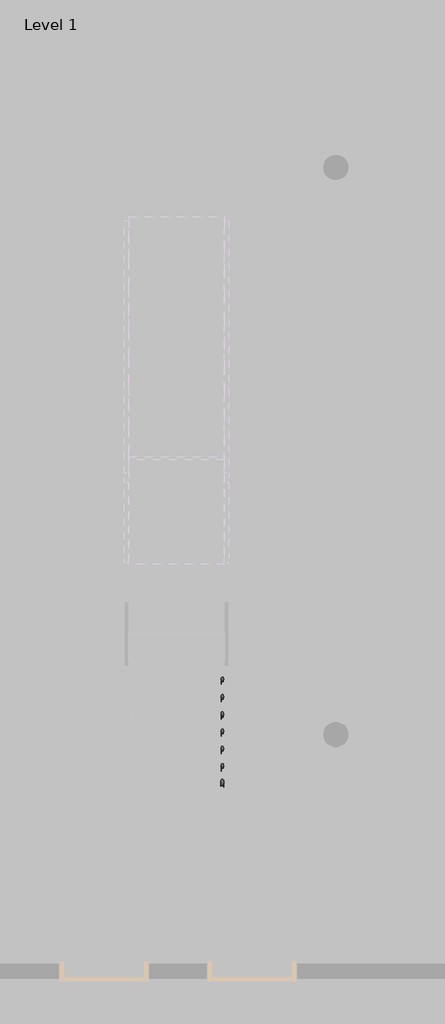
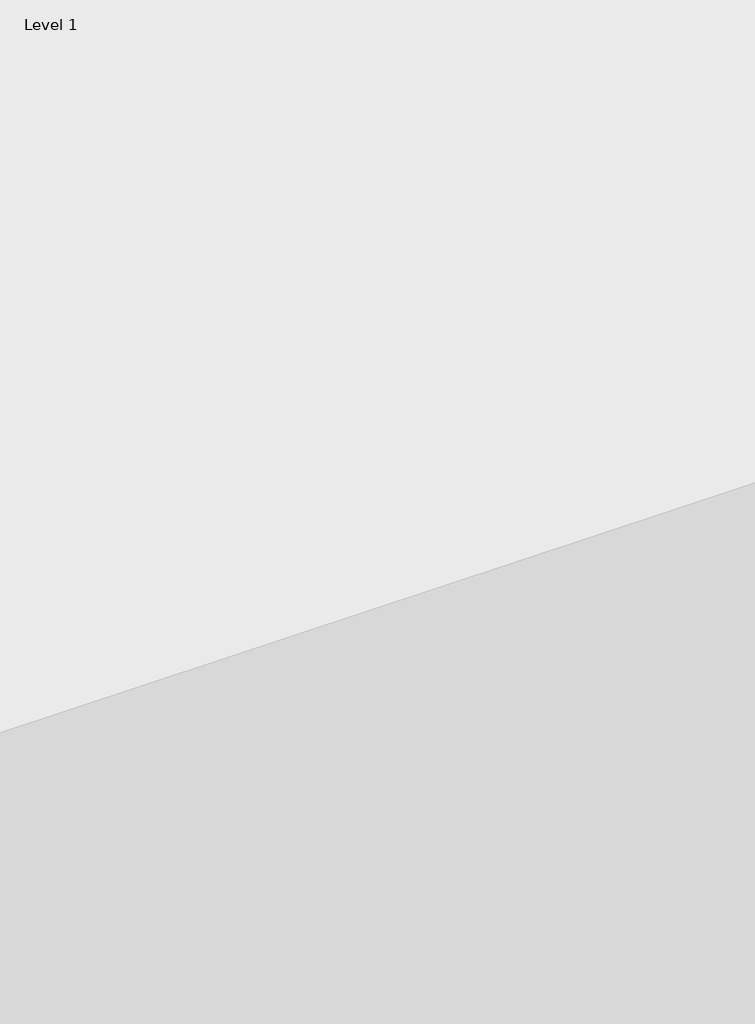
# One storey, part 19 of 27: 1 railing.
"""IFC4 building model written with IfcOpenShell, lengths in millimetres."""

from ifc_helpers import new_model, si_unit, frame, origin, place, context, project, spatial, circle_curve, ellipse_curve, element, save
from ifc_brep_helpers import plane_surface, cylinder_surface, advanced_brep

model = new_model("IFC4")

# Units and contexts
model_context = context("Model", 3, world=origin())
ifc_project = project(units=[si_unit("LENGTHUNIT", "METRE", prefix="MILLI")], contexts=[model_context])

# Site, building, storey
site = spatial("IfcSite", under=ifc_project)
building = spatial("IfcBuilding", under=site)
storey = spatial("IfcBuildingStorey", under=building, Name="Level 1", Elevation=0.0)

# Railing
placement = place(None, origin())
element("IfcRailing", 1, ObjectType="900mm Pipe", at=placement, inside=storey, context=model_context, shape_type="AdvancedBrep", body=[
    advanced_brep(
    [(3663.2567657, -13373.8611817, 1049.1094102), (3623.2567657, -13373.8611817, 1049.1094102), (3663.2567657, -10618.1011638, 2780.0), (3623.2567657, -10618.1011638, 2780.0), (3663.2567657, -9693.1011638, 2780.0), (3623.2567657, -9693.1011638, 2780.0), (3663.2567657, -9413.2234845, 2955.790939), (3623.2567657, -9413.2234845, 2955.790939), (3663.2567657, -6673.8611817, 4676.3821375), (3623.2567657, -6673.8611817, 4676.3821375)],
    [
        (0, 1, ellipse_curve(frame((3643.2567657, -13373.8611817, 1049.1094102), z_axis=(0.0, -1.0, 0.0), x_axis=(0.0, 0.0, -1.0)), 23.6178625, 20.0)),
        (1, 0, ellipse_curve(frame((3643.2567657, -13373.8611817, 1049.1094102), z_axis=(0.0, -1.0, 0.0), x_axis=(0.0, 0.0, -1.0)), 23.6178625, 20.0)),
        (0, 2),
        (2, 3, ellipse_curve(frame((3643.2567657, -10618.1011638, 2780.0), z_axis=(0.0, -0.9609413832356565, -0.2767519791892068), x_axis=(0.0, 0.2767519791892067, -0.9609413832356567)), 20.812924, 20.0)),
        (3, 1),
        (3, 2, ellipse_curve(frame((3643.2567657, -10618.1011638, 2780.0), z_axis=(0.0, -0.9609413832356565, -0.2767519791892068), x_axis=(0.0, 0.2767519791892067, -0.9609413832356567)), 20.812924, 20.0)),
        (2, 4),
        (4, 5, ellipse_curve(frame((3643.2567657, -9693.1011638, 2780.0), z_axis=(0.0, -0.9609413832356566, -0.2767519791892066), x_axis=(0.0, -0.2767519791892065, 0.9609413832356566)), 20.812924, 20.0)),
        (5, 3),
        (5, 4, ellipse_curve(frame((3643.2567657, -9693.1011638, 2780.0), z_axis=(0.0, -0.9609413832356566, -0.2767519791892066), x_axis=(0.0, -0.2767519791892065, 0.9609413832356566)), 20.812924, 20.0)),
        (4, 6),
        (6, 7, circle_curve(frame((3643.2567657, -9413.2234845, 2955.790939), z_axis=(0.0, -0.846816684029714, -0.5318848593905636), x_axis=(-1.0, 0.0, 0.0)), 20.0)),
        (7, 5),
        (7, 6, circle_curve(frame((3643.2567657, -9413.2234845, 2955.790939), z_axis=(0.0, -0.846816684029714, -0.5318848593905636), x_axis=(-1.0, 0.0, 0.0)), 20.0)),
        (8, 9, ellipse_curve(frame((3643.2567657, -6673.8611817, 4676.3821375), z_axis=(0.0, 1.0, 0.0), x_axis=(0.0, 0.0, -1.0)), 23.6178625, 20.0)),
        (9, 8, ellipse_curve(frame((3643.2567657, -6673.8611817, 4676.3821375), z_axis=(0.0, 1.0, 0.0), x_axis=(0.0, 0.0, -1.0)), 23.6178625, 20.0)),
        (6, 8),
        (9, 7),
    ],
    [
        plane_surface(frame((3643.2567657, -13373.8611817, 1072.7272727), z_axis=(0.0, -1.0, 0.0), x_axis=(0.0, 0.0, 1.0))),
        cylinder_surface(frame((3643.2567657, -13363.2234845, 1055.790939), z_axis=(0.0, -0.8468166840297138, -0.5318848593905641), x_axis=(-1.0, 0.0, 0.0)), 20.0),
        cylinder_surface(frame((3643.2567657, -10623.8611817, 2780.0), z_axis=(0.0, -1.0, 0.0), x_axis=(-1.0, 0.0, 0.0)), 20.0),
        cylinder_surface(frame((3643.2567657, -9688.2234845, 2783.0636663), z_axis=(0.0, -0.846816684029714, -0.5318848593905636), x_axis=(-1.0, 0.0, 0.0)), 20.0),
        plane_surface(frame((3643.2567657, -6673.8611817, 4700.0), z_axis=(0.0, 1.0, 0.0), x_axis=(0.0, 0.0, 1.0))),
        cylinder_surface(frame((3643.2567657, -9413.2234845, 2955.790939), z_axis=(0.0, -0.8468166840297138, -0.5318848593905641), x_axis=(-1.0, 0.0, 0.0)), 20.0),
    ],
    [
        (0, [[1, 2]]),
        (1, [[-1, 3, 4, 5]]),
        (1, [[-2, -5, 6, -3]]),
        (2, [[-4, 7, 8, 9]]),
        (2, [[-6, -9, 10, -7]]),
        (3, [[-8, 11, 12, 13]]),
        (3, [[-10, -13, 14, -11]]),
        (4, [[15, 16]]),
        (5, [[-12, 17, -16, 18]]),
        (5, [[-14, -18, -15, -17]]),
    ],
),
    advanced_brep(
    [(3628.2567657, -13373.8611817, 930.0138759), (3658.2567657, -13373.8611817, 930.0138759), (3628.2567657, -10623.8611817, 2657.2866031), (3658.2567657, -10623.8611817, 2657.2866031)],
    [
        (0, 1, ellipse_curve(frame((3643.2567657, -13373.8611817, 930.0138759), z_axis=(0.0, -1.0, 0.0), x_axis=(0.0, 0.0, -1.0)), 17.7133969, 15.0)),
        (1, 0, ellipse_curve(frame((3643.2567657, -13373.8611817, 930.0138759), z_axis=(0.0, -1.0, 0.0), x_axis=(0.0, 0.0, -1.0)), 17.7133969, 15.0)),
        (2, 3, ellipse_curve(frame((3643.2567657, -10623.8611817, 2657.2866031), z_axis=(0.0, 1.0, 0.0), x_axis=(0.0, 0.0, -1.0)), 17.7133969, 15.0)),
        (3, 2, ellipse_curve(frame((3643.2567657, -10623.8611817, 2657.2866031), z_axis=(0.0, 1.0, 0.0), x_axis=(0.0, 0.0, -1.0)), 17.7133969, 15.0)),
        (0, 2),
        (3, 1),
    ],
    [
        plane_surface(frame((3643.2567657, -13373.8611817, 947.7272727), z_axis=(0.0, -1.0, 0.0), x_axis=(0.0, 0.0, 1.0))),
        plane_surface(frame((3643.2567657, -10623.8611817, 2675.0), z_axis=(0.0, 1.0, 0.0), x_axis=(0.0, 0.0, 1.0))),
        cylinder_surface(frame((3643.2567657, -13365.8829088, 935.0250225), z_axis=(0.0, -0.8468166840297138, -0.5318848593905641), x_axis=(1.0, 0.0, 0.0)), 15.0),
    ],
    [
        (0, [[1, 2]]),
        (1, [[3, 4]]),
        (2, [[-1, 5, -4, 6]]),
        (2, [[-2, -6, -3, -5]]),
    ],
),
    advanced_brep(
    [(3628.2567657, -10623.8611817, 2660.0), (3658.2567657, -10623.8611817, 2660.0), (3628.2567657, -9694.5411682, 2660.0), (3658.2567657, -9694.5411682, 2660.0), (3628.2567657, -9423.8611817, 2830.0138759), (3658.2567657, -9423.8611817, 2830.0138759)],
    [
        (0, 1, circle_curve(frame((3643.2567657, -10623.8611817, 2660.0), z_axis=(0.0, -1.0, 0.0), x_axis=(1.0, 0.0, 0.0)), 15.0)),
        (1, 0, circle_curve(frame((3643.2567657, -10623.8611817, 2660.0), z_axis=(0.0, -1.0, 0.0), x_axis=(1.0, 0.0, 0.0)), 15.0)),
        (0, 2),
        (2, 3, ellipse_curve(frame((3643.2567657, -9694.5411682, 2660.0), z_axis=(0.0, -0.9609413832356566, -0.2767519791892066), x_axis=(0.0, -0.27675197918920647, 0.9609413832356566)), 15.609693, 15.0)),
        (3, 1),
        (3, 2, ellipse_curve(frame((3643.2567657, -9694.5411682, 2660.0), z_axis=(0.0, -0.9609413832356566, -0.2767519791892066), x_axis=(0.0, -0.27675197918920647, 0.9609413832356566)), 15.609693, 15.0)),
        (4, 5, ellipse_curve(frame((3643.2567657, -9423.8611817, 2830.0138759), z_axis=(0.0, 1.0, 0.0), x_axis=(0.0, 0.0, -1.0)), 17.7133969, 15.0)),
        (5, 4, ellipse_curve(frame((3643.2567657, -9423.8611817, 2830.0138759), z_axis=(0.0, 1.0, 0.0), x_axis=(0.0, 0.0, -1.0)), 17.7133969, 15.0)),
        (2, 4),
        (5, 3),
    ],
    [
        plane_surface(frame((3643.2567657, -10623.8611817, 2675.0), z_axis=(0.0, -1.0, 0.0), x_axis=(0.0, 0.0, 1.0))),
        cylinder_surface(frame((3643.2567657, -10623.8611817, 2660.0), z_axis=(0.0, -1.0, 0.0), x_axis=(1.0, 0.0, 0.0)), 15.0),
        plane_surface(frame((3643.2567657, -9423.8611817, 2847.7272727), z_axis=(0.0, 1.0, 0.0), x_axis=(0.0, 0.0, 1.0))),
        cylinder_surface(frame((3643.2567657, -9690.8829088, 2662.2977497), z_axis=(0.0, -0.846816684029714, -0.5318848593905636), x_axis=(1.0, 0.0, 0.0)), 15.0),
    ],
    [
        (0, [[1, 2]]),
        (1, [[-1, 3, 4, 5]]),
        (1, [[-2, -5, 6, -3]]),
        (2, [[7, 8]]),
        (3, [[-4, 9, -8, 10]]),
        (3, [[-6, -10, -7, -9]]),
    ],
),
    advanced_brep(
    [(3628.2567657, -9423.8611817, 2830.0138759), (3658.2567657, -9423.8611817, 2830.0138759), (3628.2567657, -6673.8611817, 4557.2866031), (3658.2567657, -6673.8611817, 4557.2866031)],
    [
        (0, 1, ellipse_curve(frame((3643.2567657, -9423.8611817, 2830.0138759), z_axis=(0.0, -1.0, 0.0), x_axis=(0.0, 0.0, -1.0)), 17.7133969, 15.0)),
        (1, 0, ellipse_curve(frame((3643.2567657, -9423.8611817, 2830.0138759), z_axis=(0.0, -1.0, 0.0), x_axis=(0.0, 0.0, -1.0)), 17.7133969, 15.0)),
        (2, 3, ellipse_curve(frame((3643.2567657, -6673.8611817, 4557.2866031), z_axis=(0.0, 1.0, 0.0), x_axis=(0.0, 0.0, -1.0)), 17.7133969, 15.0)),
        (3, 2, ellipse_curve(frame((3643.2567657, -6673.8611817, 4557.2866031), z_axis=(0.0, 1.0, 0.0), x_axis=(0.0, 0.0, -1.0)), 17.7133969, 15.0)),
        (0, 2),
        (3, 1),
    ],
    [
        plane_surface(frame((3643.2567657, -9423.8611817, 2847.7272727), z_axis=(0.0, -1.0, 0.0), x_axis=(0.0, 0.0, 1.0))),
        plane_surface(frame((3643.2567657, -6673.8611817, 4575.0), z_axis=(0.0, 1.0, 0.0), x_axis=(0.0, 0.0, 1.0))),
        cylinder_surface(frame((3643.2567657, -9415.8829088, 2835.0250225), z_axis=(0.0, -0.8468166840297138, -0.5318848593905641), x_axis=(1.0, 0.0, 0.0)), 15.0),
    ],
    [
        (0, [[1, 2]]),
        (1, [[3, 4]]),
        (2, [[-1, 5, -4, 6]]),
        (2, [[-2, -6, -3, -5]]),
    ],
),
    advanced_brep(
    [(3628.2567657, -13373.8611817, 805.0138759), (3658.2567657, -13373.8611817, 805.0138759), (3628.2567657, -10623.8611817, 2532.2866031), (3658.2567657, -10623.8611817, 2532.2866031)],
    [
        (0, 1, ellipse_curve(frame((3643.2567657, -13373.8611817, 805.0138759), z_axis=(0.0, -1.0, 0.0), x_axis=(0.0, 0.0, -1.0)), 17.7133969, 15.0)),
        (1, 0, ellipse_curve(frame((3643.2567657, -13373.8611817, 805.0138759), z_axis=(0.0, -1.0, 0.0), x_axis=(0.0, 0.0, -1.0)), 17.7133969, 15.0)),
        (2, 3, ellipse_curve(frame((3643.2567657, -10623.8611817, 2532.2866031), z_axis=(0.0, 1.0, 0.0), x_axis=(0.0, 0.0, -1.0)), 17.7133969, 15.0)),
        (3, 2, ellipse_curve(frame((3643.2567657, -10623.8611817, 2532.2866031), z_axis=(0.0, 1.0, 0.0), x_axis=(0.0, 0.0, -1.0)), 17.7133969, 15.0)),
        (0, 2),
        (3, 1),
    ],
    [
        plane_surface(frame((3643.2567657, -13373.8611817, 822.7272727), z_axis=(0.0, -1.0, 0.0), x_axis=(0.0, 0.0, 1.0))),
        plane_surface(frame((3643.2567657, -10623.8611817, 2550.0), z_axis=(0.0, 1.0, 0.0), x_axis=(0.0, 0.0, 1.0))),
        cylinder_surface(frame((3643.2567657, -13365.8829088, 810.0250225), z_axis=(0.0, -0.8468166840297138, -0.5318848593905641), x_axis=(1.0, 0.0, 0.0)), 15.0),
    ],
    [
        (0, [[1, 2]]),
        (1, [[3, 4]]),
        (2, [[-1, 5, -4, 6]]),
        (2, [[-2, -6, -3, -5]]),
    ],
),
    advanced_brep(
    [(3628.2567657, -10623.8611817, 2535.0), (3658.2567657, -10623.8611817, 2535.0), (3628.2567657, -9694.5411682, 2535.0), (3658.2567657, -9694.5411682, 2535.0), (3628.2567657, -9423.8611817, 2705.0138759), (3658.2567657, -9423.8611817, 2705.0138759)],
    [
        (0, 1, circle_curve(frame((3643.2567657, -10623.8611817, 2535.0), z_axis=(0.0, -1.0, 0.0), x_axis=(1.0, 0.0, 0.0)), 15.0)),
        (1, 0, circle_curve(frame((3643.2567657, -10623.8611817, 2535.0), z_axis=(0.0, -1.0, 0.0), x_axis=(1.0, 0.0, 0.0)), 15.0)),
        (0, 2),
        (2, 3, ellipse_curve(frame((3643.2567657, -9694.5411682, 2535.0), z_axis=(0.0, -0.9609413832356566, -0.2767519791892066), x_axis=(0.0, -0.27675197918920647, 0.9609413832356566)), 15.609693, 15.0)),
        (3, 1),
        (3, 2, ellipse_curve(frame((3643.2567657, -9694.5411682, 2535.0), z_axis=(0.0, -0.9609413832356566, -0.2767519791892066), x_axis=(0.0, -0.27675197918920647, 0.9609413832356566)), 15.609693, 15.0)),
        (4, 5, ellipse_curve(frame((3643.2567657, -9423.8611817, 2705.0138759), z_axis=(0.0, 1.0, 0.0), x_axis=(0.0, 0.0, -1.0)), 17.7133969, 15.0)),
        (5, 4, ellipse_curve(frame((3643.2567657, -9423.8611817, 2705.0138759), z_axis=(0.0, 1.0, 0.0), x_axis=(0.0, 0.0, -1.0)), 17.7133969, 15.0)),
        (2, 4),
        (5, 3),
    ],
    [
        plane_surface(frame((3643.2567657, -10623.8611817, 2550.0), z_axis=(0.0, -1.0, 0.0), x_axis=(0.0, 0.0, 1.0))),
        cylinder_surface(frame((3643.2567657, -10623.8611817, 2535.0), z_axis=(0.0, -1.0, 0.0), x_axis=(1.0, 0.0, 0.0)), 15.0),
        plane_surface(frame((3643.2567657, -9423.8611817, 2722.7272727), z_axis=(0.0, 1.0, 0.0), x_axis=(0.0, 0.0, 1.0))),
        cylinder_surface(frame((3643.2567657, -9690.8829088, 2537.2977497), z_axis=(0.0, -0.846816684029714, -0.5318848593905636), x_axis=(1.0, 0.0, 0.0)), 15.0),
    ],
    [
        (0, [[1, 2]]),
        (1, [[-1, 3, 4, 5]]),
        (1, [[-2, -5, 6, -3]]),
        (2, [[7, 8]]),
        (3, [[-4, 9, -8, 10]]),
        (3, [[-6, -10, -7, -9]]),
    ],
),
    advanced_brep(
    [(3628.2567657, -9423.8611817, 2705.0138759), (3658.2567657, -9423.8611817, 2705.0138759), (3628.2567657, -6673.8611817, 4432.2866031), (3658.2567657, -6673.8611817, 4432.2866031)],
    [
        (0, 1, ellipse_curve(frame((3643.2567657, -9423.8611817, 2705.0138759), z_axis=(0.0, -1.0, 0.0), x_axis=(0.0, 0.0, -1.0)), 17.7133969, 15.0)),
        (1, 0, ellipse_curve(frame((3643.2567657, -9423.8611817, 2705.0138759), z_axis=(0.0, -1.0, 0.0), x_axis=(0.0, 0.0, -1.0)), 17.7133969, 15.0)),
        (2, 3, ellipse_curve(frame((3643.2567657, -6673.8611817, 4432.2866031), z_axis=(0.0, 1.0, 0.0), x_axis=(0.0, 0.0, -1.0)), 17.7133969, 15.0)),
        (3, 2, ellipse_curve(frame((3643.2567657, -6673.8611817, 4432.2866031), z_axis=(0.0, 1.0, 0.0), x_axis=(0.0, 0.0, -1.0)), 17.7133969, 15.0)),
        (0, 2),
        (3, 1),
    ],
    [
        plane_surface(frame((3643.2567657, -9423.8611817, 2722.7272727), z_axis=(0.0, -1.0, 0.0), x_axis=(0.0, 0.0, 1.0))),
        plane_surface(frame((3643.2567657, -6673.8611817, 4450.0), z_axis=(0.0, 1.0, 0.0), x_axis=(0.0, 0.0, 1.0))),
        cylinder_surface(frame((3643.2567657, -9415.8829088, 2710.0250225), z_axis=(0.0, -0.8468166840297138, -0.5318848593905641), x_axis=(1.0, 0.0, 0.0)), 15.0),
    ],
    [
        (0, [[1, 2]]),
        (1, [[3, 4]]),
        (2, [[-1, 5, -4, 6]]),
        (2, [[-2, -6, -3, -5]]),
    ],
),
    advanced_brep(
    [(3628.2567657, -13373.8611817, 680.0138759), (3658.2567657, -13373.8611817, 680.0138759), (3628.2567657, -10623.8611817, 2407.2866031), (3658.2567657, -10623.8611817, 2407.2866031)],
    [
        (0, 1, ellipse_curve(frame((3643.2567657, -13373.8611817, 680.0138759), z_axis=(0.0, -1.0, 0.0), x_axis=(0.0, 0.0, -1.0)), 17.7133969, 15.0)),
        (1, 0, ellipse_curve(frame((3643.2567657, -13373.8611817, 680.0138759), z_axis=(0.0, -1.0, 0.0), x_axis=(0.0, 0.0, -1.0)), 17.7133969, 15.0)),
        (2, 3, ellipse_curve(frame((3643.2567657, -10623.8611817, 2407.2866031), z_axis=(0.0, 1.0, 0.0), x_axis=(0.0, 0.0, -1.0)), 17.7133969, 15.0)),
        (3, 2, ellipse_curve(frame((3643.2567657, -10623.8611817, 2407.2866031), z_axis=(0.0, 1.0, 0.0), x_axis=(0.0, 0.0, -1.0)), 17.7133969, 15.0)),
        (0, 2),
        (3, 1),
    ],
    [
        plane_surface(frame((3643.2567657, -13373.8611817, 697.7272727), z_axis=(0.0, -1.0, 0.0), x_axis=(0.0, 0.0, 1.0))),
        plane_surface(frame((3643.2567657, -10623.8611817, 2425.0), z_axis=(0.0, 1.0, 0.0), x_axis=(0.0, 0.0, 1.0))),
        cylinder_surface(frame((3643.2567657, -13365.8829088, 685.0250225), z_axis=(0.0, -0.8468166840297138, -0.5318848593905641), x_axis=(1.0, 0.0, 0.0)), 15.0),
    ],
    [
        (0, [[1, 2]]),
        (1, [[3, 4]]),
        (2, [[-1, 5, -4, 6]]),
        (2, [[-2, -6, -3, -5]]),
    ],
),
    advanced_brep(
    [(3628.2567657, -10623.8611817, 2410.0), (3658.2567657, -10623.8611817, 2410.0), (3628.2567657, -9694.5411682, 2410.0), (3658.2567657, -9694.5411682, 2410.0), (3628.2567657, -9423.8611817, 2580.0138759), (3658.2567657, -9423.8611817, 2580.0138759)],
    [
        (0, 1, circle_curve(frame((3643.2567657, -10623.8611817, 2410.0), z_axis=(0.0, -1.0, 0.0), x_axis=(1.0, 0.0, 0.0)), 15.0)),
        (1, 0, circle_curve(frame((3643.2567657, -10623.8611817, 2410.0), z_axis=(0.0, -1.0, 0.0), x_axis=(1.0, 0.0, 0.0)), 15.0)),
        (0, 2),
        (2, 3, ellipse_curve(frame((3643.2567657, -9694.5411682, 2410.0), z_axis=(0.0, -0.9609413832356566, -0.2767519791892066), x_axis=(0.0, -0.27675197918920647, 0.9609413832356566)), 15.609693, 15.0)),
        (3, 1),
        (3, 2, ellipse_curve(frame((3643.2567657, -9694.5411682, 2410.0), z_axis=(0.0, -0.9609413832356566, -0.2767519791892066), x_axis=(0.0, -0.27675197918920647, 0.9609413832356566)), 15.609693, 15.0)),
        (4, 5, ellipse_curve(frame((3643.2567657, -9423.8611817, 2580.0138759), z_axis=(0.0, 1.0, 0.0), x_axis=(0.0, 0.0, -1.0)), 17.7133969, 15.0)),
        (5, 4, ellipse_curve(frame((3643.2567657, -9423.8611817, 2580.0138759), z_axis=(0.0, 1.0, 0.0), x_axis=(0.0, 0.0, -1.0)), 17.7133969, 15.0)),
        (2, 4),
        (5, 3),
    ],
    [
        plane_surface(frame((3643.2567657, -10623.8611817, 2425.0), z_axis=(0.0, -1.0, 0.0), x_axis=(0.0, 0.0, 1.0))),
        cylinder_surface(frame((3643.2567657, -10623.8611817, 2410.0), z_axis=(0.0, -1.0, 0.0), x_axis=(1.0, 0.0, 0.0)), 15.0),
        plane_surface(frame((3643.2567657, -9423.8611817, 2597.7272727), z_axis=(0.0, 1.0, 0.0), x_axis=(0.0, 0.0, 1.0))),
        cylinder_surface(frame((3643.2567657, -9690.8829088, 2412.2977497), z_axis=(0.0, -0.846816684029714, -0.5318848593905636), x_axis=(1.0, 0.0, 0.0)), 15.0),
    ],
    [
        (0, [[1, 2]]),
        (1, [[-1, 3, 4, 5]]),
        (1, [[-2, -5, 6, -3]]),
        (2, [[7, 8]]),
        (3, [[-4, 9, -8, 10]]),
        (3, [[-6, -10, -7, -9]]),
    ],
),
    advanced_brep(
    [(3628.2567657, -9423.8611817, 2580.0138759), (3658.2567657, -9423.8611817, 2580.0138759), (3628.2567657, -6673.8611817, 4307.2866031), (3658.2567657, -6673.8611817, 4307.2866031)],
    [
        (0, 1, ellipse_curve(frame((3643.2567657, -9423.8611817, 2580.0138759), z_axis=(0.0, -1.0, 0.0), x_axis=(0.0, 0.0, -1.0)), 17.7133969, 15.0)),
        (1, 0, ellipse_curve(frame((3643.2567657, -9423.8611817, 2580.0138759), z_axis=(0.0, -1.0, 0.0), x_axis=(0.0, 0.0, -1.0)), 17.7133969, 15.0)),
        (2, 3, ellipse_curve(frame((3643.2567657, -6673.8611817, 4307.2866031), z_axis=(0.0, 1.0, 0.0), x_axis=(0.0, 0.0, -1.0)), 17.7133969, 15.0)),
        (3, 2, ellipse_curve(frame((3643.2567657, -6673.8611817, 4307.2866031), z_axis=(0.0, 1.0, 0.0), x_axis=(0.0, 0.0, -1.0)), 17.7133969, 15.0)),
        (0, 2),
        (3, 1),
    ],
    [
        plane_surface(frame((3643.2567657, -9423.8611817, 2597.7272727), z_axis=(0.0, -1.0, 0.0), x_axis=(0.0, 0.0, 1.0))),
        plane_surface(frame((3643.2567657, -6673.8611817, 4325.0), z_axis=(0.0, 1.0, 0.0), x_axis=(0.0, 0.0, 1.0))),
        cylinder_surface(frame((3643.2567657, -9415.8829088, 2585.0250225), z_axis=(0.0, -0.8468166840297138, -0.5318848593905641), x_axis=(1.0, 0.0, 0.0)), 15.0),
    ],
    [
        (0, [[1, 2]]),
        (1, [[3, 4]]),
        (2, [[-1, 5, -4, 6]]),
        (2, [[-2, -6, -3, -5]]),
    ],
),
    advanced_brep(
    [(3628.2567657, -13373.8611817, 555.0138759), (3658.2567657, -13373.8611817, 555.0138759), (3628.2567657, -10623.8611817, 2282.2866031), (3658.2567657, -10623.8611817, 2282.2866031)],
    [
        (0, 1, ellipse_curve(frame((3643.2567657, -13373.8611817, 555.0138759), z_axis=(0.0, -1.0, 0.0), x_axis=(0.0, 0.0, -1.0)), 17.7133969, 15.0)),
        (1, 0, ellipse_curve(frame((3643.2567657, -13373.8611817, 555.0138759), z_axis=(0.0, -1.0, 0.0), x_axis=(0.0, 0.0, -1.0)), 17.7133969, 15.0)),
        (2, 3, ellipse_curve(frame((3643.2567657, -10623.8611817, 2282.2866031), z_axis=(0.0, 1.0, 0.0), x_axis=(0.0, 0.0, -1.0)), 17.7133969, 15.0)),
        (3, 2, ellipse_curve(frame((3643.2567657, -10623.8611817, 2282.2866031), z_axis=(0.0, 1.0, 0.0), x_axis=(0.0, 0.0, -1.0)), 17.7133969, 15.0)),
        (0, 2),
        (3, 1),
    ],
    [
        plane_surface(frame((3643.2567657, -13373.8611817, 572.7272727), z_axis=(0.0, -1.0, 0.0), x_axis=(0.0, 0.0, 1.0))),
        plane_surface(frame((3643.2567657, -10623.8611817, 2300.0), z_axis=(0.0, 1.0, 0.0), x_axis=(0.0, 0.0, 1.0))),
        cylinder_surface(frame((3643.2567657, -13365.8829088, 560.0250225), z_axis=(0.0, -0.8468166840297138, -0.5318848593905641), x_axis=(1.0, 0.0, 0.0)), 15.0),
    ],
    [
        (0, [[1, 2]]),
        (1, [[3, 4]]),
        (2, [[-1, 5, -4, 6]]),
        (2, [[-2, -6, -3, -5]]),
    ],
),
    advanced_brep(
    [(3628.2567657, -10623.8611817, 2285.0), (3658.2567657, -10623.8611817, 2285.0), (3628.2567657, -9694.5411682, 2285.0), (3658.2567657, -9694.5411682, 2285.0), (3628.2567657, -9423.8611817, 2455.0138759), (3658.2567657, -9423.8611817, 2455.0138759)],
    [
        (0, 1, circle_curve(frame((3643.2567657, -10623.8611817, 2285.0), z_axis=(0.0, -1.0, 0.0), x_axis=(1.0, 0.0, 0.0)), 15.0)),
        (1, 0, circle_curve(frame((3643.2567657, -10623.8611817, 2285.0), z_axis=(0.0, -1.0, 0.0), x_axis=(1.0, 0.0, 0.0)), 15.0)),
        (0, 2),
        (2, 3, ellipse_curve(frame((3643.2567657, -9694.5411682, 2285.0), z_axis=(0.0, -0.9609413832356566, -0.2767519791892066), x_axis=(0.0, -0.27675197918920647, 0.9609413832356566)), 15.609693, 15.0)),
        (3, 1),
        (3, 2, ellipse_curve(frame((3643.2567657, -9694.5411682, 2285.0), z_axis=(0.0, -0.9609413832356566, -0.2767519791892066), x_axis=(0.0, -0.27675197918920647, 0.9609413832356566)), 15.609693, 15.0)),
        (4, 5, ellipse_curve(frame((3643.2567657, -9423.8611817, 2455.0138759), z_axis=(0.0, 1.0, 0.0), x_axis=(0.0, 0.0, -1.0)), 17.7133969, 15.0)),
        (5, 4, ellipse_curve(frame((3643.2567657, -9423.8611817, 2455.0138759), z_axis=(0.0, 1.0, 0.0), x_axis=(0.0, 0.0, -1.0)), 17.7133969, 15.0)),
        (2, 4),
        (5, 3),
    ],
    [
        plane_surface(frame((3643.2567657, -10623.8611817, 2300.0), z_axis=(0.0, -1.0, 0.0), x_axis=(0.0, 0.0, 1.0))),
        cylinder_surface(frame((3643.2567657, -10623.8611817, 2285.0), z_axis=(0.0, -1.0, 0.0), x_axis=(1.0, 0.0, 0.0)), 15.0),
        plane_surface(frame((3643.2567657, -9423.8611817, 2472.7272727), z_axis=(0.0, 1.0, 0.0), x_axis=(0.0, 0.0, 1.0))),
        cylinder_surface(frame((3643.2567657, -9690.8829088, 2287.2977497), z_axis=(0.0, -0.846816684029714, -0.5318848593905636), x_axis=(1.0, 0.0, 0.0)), 15.0),
    ],
    [
        (0, [[1, 2]]),
        (1, [[-1, 3, 4, 5]]),
        (1, [[-2, -5, 6, -3]]),
        (2, [[7, 8]]),
        (3, [[-4, 9, -8, 10]]),
        (3, [[-6, -10, -7, -9]]),
    ],
),
    advanced_brep(
    [(3628.2567657, -9423.8611817, 2455.0138759), (3658.2567657, -9423.8611817, 2455.0138759), (3628.2567657, -6673.8611817, 4182.2866031), (3658.2567657, -6673.8611817, 4182.2866031)],
    [
        (0, 1, ellipse_curve(frame((3643.2567657, -9423.8611817, 2455.0138759), z_axis=(0.0, -1.0, 0.0), x_axis=(0.0, 0.0, -1.0)), 17.7133969, 15.0)),
        (1, 0, ellipse_curve(frame((3643.2567657, -9423.8611817, 2455.0138759), z_axis=(0.0, -1.0, 0.0), x_axis=(0.0, 0.0, -1.0)), 17.7133969, 15.0)),
        (2, 3, ellipse_curve(frame((3643.2567657, -6673.8611817, 4182.2866031), z_axis=(0.0, 1.0, 0.0), x_axis=(0.0, 0.0, -1.0)), 17.7133969, 15.0)),
        (3, 2, ellipse_curve(frame((3643.2567657, -6673.8611817, 4182.2866031), z_axis=(0.0, 1.0, 0.0), x_axis=(0.0, 0.0, -1.0)), 17.7133969, 15.0)),
        (0, 2),
        (3, 1),
    ],
    [
        plane_surface(frame((3643.2567657, -9423.8611817, 2472.7272727), z_axis=(0.0, -1.0, 0.0), x_axis=(0.0, 0.0, 1.0))),
        plane_surface(frame((3643.2567657, -6673.8611817, 4200.0), z_axis=(0.0, 1.0, 0.0), x_axis=(0.0, 0.0, 1.0))),
        cylinder_surface(frame((3643.2567657, -9415.8829088, 2460.0250225), z_axis=(0.0, -0.8468166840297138, -0.5318848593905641), x_axis=(1.0, 0.0, 0.0)), 15.0),
    ],
    [
        (0, [[1, 2]]),
        (1, [[3, 4]]),
        (2, [[-1, 5, -4, 6]]),
        (2, [[-2, -6, -3, -5]]),
    ],
),
    advanced_brep(
    [(3628.2567657, -13373.8611817, 430.0138759), (3658.2567657, -13373.8611817, 430.0138759), (3628.2567657, -10623.8611817, 2157.2866031), (3658.2567657, -10623.8611817, 2157.2866031)],
    [
        (0, 1, ellipse_curve(frame((3643.2567657, -13373.8611817, 430.0138759), z_axis=(0.0, -1.0, 0.0), x_axis=(0.0, 0.0, -1.0)), 17.7133969, 15.0)),
        (1, 0, ellipse_curve(frame((3643.2567657, -13373.8611817, 430.0138759), z_axis=(0.0, -1.0, 0.0), x_axis=(0.0, 0.0, -1.0)), 17.7133969, 15.0)),
        (2, 3, ellipse_curve(frame((3643.2567657, -10623.8611817, 2157.2866031), z_axis=(0.0, 1.0, 0.0), x_axis=(0.0, 0.0, -1.0)), 17.7133969, 15.0)),
        (3, 2, ellipse_curve(frame((3643.2567657, -10623.8611817, 2157.2866031), z_axis=(0.0, 1.0, 0.0), x_axis=(0.0, 0.0, -1.0)), 17.7133969, 15.0)),
        (0, 2),
        (3, 1),
    ],
    [
        plane_surface(frame((3643.2567657, -13373.8611817, 447.7272727), z_axis=(0.0, -1.0, 0.0), x_axis=(0.0, 0.0, 1.0))),
        plane_surface(frame((3643.2567657, -10623.8611817, 2175.0), z_axis=(0.0, 1.0, 0.0), x_axis=(0.0, 0.0, 1.0))),
        cylinder_surface(frame((3643.2567657, -13365.8829088, 435.0250225), z_axis=(0.0, -0.8468166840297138, -0.5318848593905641), x_axis=(1.0, 0.0, 0.0)), 15.0),
    ],
    [
        (0, [[1, 2]]),
        (1, [[3, 4]]),
        (2, [[-1, 5, -4, 6]]),
        (2, [[-2, -6, -3, -5]]),
    ],
),
    advanced_brep(
    [(3628.2567657, -10623.8611817, 2160.0), (3658.2567657, -10623.8611817, 2160.0), (3628.2567657, -9694.5411682, 2160.0), (3658.2567657, -9694.5411682, 2160.0), (3628.2567657, -9423.8611817, 2330.0138759), (3658.2567657, -9423.8611817, 2330.0138759)],
    [
        (0, 1, circle_curve(frame((3643.2567657, -10623.8611817, 2160.0), z_axis=(0.0, -1.0, 0.0), x_axis=(1.0, 0.0, 0.0)), 15.0)),
        (1, 0, circle_curve(frame((3643.2567657, -10623.8611817, 2160.0), z_axis=(0.0, -1.0, 0.0), x_axis=(1.0, 0.0, 0.0)), 15.0)),
        (0, 2),
        (2, 3, ellipse_curve(frame((3643.2567657, -9694.5411682, 2160.0), z_axis=(0.0, -0.9609413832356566, -0.2767519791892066), x_axis=(0.0, -0.27675197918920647, 0.9609413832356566)), 15.609693, 15.0)),
        (3, 1),
        (3, 2, ellipse_curve(frame((3643.2567657, -9694.5411682, 2160.0), z_axis=(0.0, -0.9609413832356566, -0.2767519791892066), x_axis=(0.0, -0.27675197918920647, 0.9609413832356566)), 15.609693, 15.0)),
        (4, 5, ellipse_curve(frame((3643.2567657, -9423.8611817, 2330.0138759), z_axis=(0.0, 1.0, 0.0), x_axis=(0.0, 0.0, -1.0)), 17.7133969, 15.0)),
        (5, 4, ellipse_curve(frame((3643.2567657, -9423.8611817, 2330.0138759), z_axis=(0.0, 1.0, 0.0), x_axis=(0.0, 0.0, -1.0)), 17.7133969, 15.0)),
        (2, 4),
        (5, 3),
    ],
    [
        plane_surface(frame((3643.2567657, -10623.8611817, 2175.0), z_axis=(0.0, -1.0, 0.0), x_axis=(0.0, 0.0, 1.0))),
        cylinder_surface(frame((3643.2567657, -10623.8611817, 2160.0), z_axis=(0.0, -1.0, 0.0), x_axis=(1.0, 0.0, 0.0)), 15.0),
        plane_surface(frame((3643.2567657, -9423.8611817, 2347.7272727), z_axis=(0.0, 1.0, 0.0), x_axis=(0.0, 0.0, 1.0))),
        cylinder_surface(frame((3643.2567657, -9690.8829088, 2162.2977497), z_axis=(0.0, -0.846816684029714, -0.5318848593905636), x_axis=(1.0, 0.0, 0.0)), 15.0),
    ],
    [
        (0, [[1, 2]]),
        (1, [[-1, 3, 4, 5]]),
        (1, [[-2, -5, 6, -3]]),
        (2, [[7, 8]]),
        (3, [[-4, 9, -8, 10]]),
        (3, [[-6, -10, -7, -9]]),
    ],
),
    advanced_brep(
    [(3628.2567657, -9423.8611817, 2330.0138759), (3658.2567657, -9423.8611817, 2330.0138759), (3628.2567657, -6673.8611817, 4057.2866031), (3658.2567657, -6673.8611817, 4057.2866031)],
    [
        (0, 1, ellipse_curve(frame((3643.2567657, -9423.8611817, 2330.0138759), z_axis=(0.0, -1.0, 0.0), x_axis=(0.0, 0.0, -1.0)), 17.7133969, 15.0)),
        (1, 0, ellipse_curve(frame((3643.2567657, -9423.8611817, 2330.0138759), z_axis=(0.0, -1.0, 0.0), x_axis=(0.0, 0.0, -1.0)), 17.7133969, 15.0)),
        (2, 3, ellipse_curve(frame((3643.2567657, -6673.8611817, 4057.2866031), z_axis=(0.0, 1.0, 0.0), x_axis=(0.0, 0.0, -1.0)), 17.7133969, 15.0)),
        (3, 2, ellipse_curve(frame((3643.2567657, -6673.8611817, 4057.2866031), z_axis=(0.0, 1.0, 0.0), x_axis=(0.0, 0.0, -1.0)), 17.7133969, 15.0)),
        (0, 2),
        (3, 1),
    ],
    [
        plane_surface(frame((3643.2567657, -9423.8611817, 2347.7272727), z_axis=(0.0, -1.0, 0.0), x_axis=(0.0, 0.0, 1.0))),
        plane_surface(frame((3643.2567657, -6673.8611817, 4075.0), z_axis=(0.0, 1.0, 0.0), x_axis=(0.0, 0.0, 1.0))),
        cylinder_surface(frame((3643.2567657, -9415.8829088, 2335.0250225), z_axis=(0.0, -0.8468166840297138, -0.5318848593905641), x_axis=(1.0, 0.0, 0.0)), 15.0),
    ],
    [
        (0, [[1, 2]]),
        (1, [[3, 4]]),
        (2, [[-1, 5, -4, 6]]),
        (2, [[-2, -6, -3, -5]]),
    ],
),
    advanced_brep(
    [(3628.2567657, -13373.8611817, 305.0138759), (3658.2567657, -13373.8611817, 305.0138759), (3628.2567657, -10623.8611817, 2032.2866031), (3658.2567657, -10623.8611817, 2032.2866031)],
    [
        (0, 1, ellipse_curve(frame((3643.2567657, -13373.8611817, 305.0138759), z_axis=(0.0, -1.0, 0.0), x_axis=(0.0, 0.0, -1.0)), 17.7133969, 15.0)),
        (1, 0, ellipse_curve(frame((3643.2567657, -13373.8611817, 305.0138759), z_axis=(0.0, -1.0, 0.0), x_axis=(0.0, 0.0, -1.0)), 17.7133969, 15.0)),
        (2, 3, ellipse_curve(frame((3643.2567657, -10623.8611817, 2032.2866031), z_axis=(0.0, 1.0, 0.0), x_axis=(0.0, 0.0, -1.0)), 17.7133969, 15.0)),
        (3, 2, ellipse_curve(frame((3643.2567657, -10623.8611817, 2032.2866031), z_axis=(0.0, 1.0, 0.0), x_axis=(0.0, 0.0, -1.0)), 17.7133969, 15.0)),
        (0, 2),
        (3, 1),
    ],
    [
        plane_surface(frame((3643.2567657, -13373.8611817, 322.7272727), z_axis=(0.0, -1.0, 0.0), x_axis=(0.0, 0.0, 1.0))),
        plane_surface(frame((3643.2567657, -10623.8611817, 2050.0), z_axis=(0.0, 1.0, 0.0), x_axis=(0.0, 0.0, 1.0))),
        cylinder_surface(frame((3643.2567657, -13365.8829088, 310.0250225), z_axis=(0.0, -0.8468166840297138, -0.5318848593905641), x_axis=(1.0, 0.0, 0.0)), 15.0),
    ],
    [
        (0, [[1, 2]]),
        (1, [[3, 4]]),
        (2, [[-1, 5, -4, 6]]),
        (2, [[-2, -6, -3, -5]]),
    ],
),
    advanced_brep(
    [(3628.2567657, -10623.8611817, 2035.0), (3658.2567657, -10623.8611817, 2035.0), (3628.2567657, -9694.5411682, 2035.0), (3658.2567657, -9694.5411682, 2035.0), (3628.2567657, -9423.8611817, 2205.0138759), (3658.2567657, -9423.8611817, 2205.0138759)],
    [
        (0, 1, circle_curve(frame((3643.2567657, -10623.8611817, 2035.0), z_axis=(0.0, -1.0, 0.0), x_axis=(1.0, 0.0, 0.0)), 15.0)),
        (1, 0, circle_curve(frame((3643.2567657, -10623.8611817, 2035.0), z_axis=(0.0, -1.0, 0.0), x_axis=(1.0, 0.0, 0.0)), 15.0)),
        (0, 2),
        (2, 3, ellipse_curve(frame((3643.2567657, -9694.5411682, 2035.0), z_axis=(0.0, -0.9609413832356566, -0.2767519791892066), x_axis=(0.0, -0.27675197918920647, 0.9609413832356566)), 15.609693, 15.0)),
        (3, 1),
        (3, 2, ellipse_curve(frame((3643.2567657, -9694.5411682, 2035.0), z_axis=(0.0, -0.9609413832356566, -0.2767519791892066), x_axis=(0.0, -0.27675197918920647, 0.9609413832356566)), 15.609693, 15.0)),
        (4, 5, ellipse_curve(frame((3643.2567657, -9423.8611817, 2205.0138759), z_axis=(0.0, 1.0, 0.0), x_axis=(0.0, 0.0, -1.0)), 17.7133969, 15.0)),
        (5, 4, ellipse_curve(frame((3643.2567657, -9423.8611817, 2205.0138759), z_axis=(0.0, 1.0, 0.0), x_axis=(0.0, 0.0, -1.0)), 17.7133969, 15.0)),
        (2, 4),
        (5, 3),
    ],
    [
        plane_surface(frame((3643.2567657, -10623.8611817, 2050.0), z_axis=(0.0, -1.0, 0.0), x_axis=(0.0, 0.0, 1.0))),
        cylinder_surface(frame((3643.2567657, -10623.8611817, 2035.0), z_axis=(0.0, -1.0, 0.0), x_axis=(1.0, 0.0, 0.0)), 15.0),
        plane_surface(frame((3643.2567657, -9423.8611817, 2222.7272727), z_axis=(0.0, 1.0, 0.0), x_axis=(0.0, 0.0, 1.0))),
        cylinder_surface(frame((3643.2567657, -9690.8829088, 2037.2977497), z_axis=(0.0, -0.846816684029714, -0.5318848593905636), x_axis=(1.0, 0.0, 0.0)), 15.0),
    ],
    [
        (0, [[1, 2]]),
        (1, [[-1, 3, 4, 5]]),
        (1, [[-2, -5, 6, -3]]),
        (2, [[7, 8]]),
        (3, [[-4, 9, -8, 10]]),
        (3, [[-6, -10, -7, -9]]),
    ],
),
    advanced_brep(
    [(3628.2567657, -9423.8611817, 2205.0138759), (3658.2567657, -9423.8611817, 2205.0138759), (3628.2567657, -6673.8611817, 3932.2866031), (3658.2567657, -6673.8611817, 3932.2866031)],
    [
        (0, 1, ellipse_curve(frame((3643.2567657, -9423.8611817, 2205.0138759), z_axis=(0.0, -1.0, 0.0), x_axis=(0.0, 0.0, -1.0)), 17.7133969, 15.0)),
        (1, 0, ellipse_curve(frame((3643.2567657, -9423.8611817, 2205.0138759), z_axis=(0.0, -1.0, 0.0), x_axis=(0.0, 0.0, -1.0)), 17.7133969, 15.0)),
        (2, 3, ellipse_curve(frame((3643.2567657, -6673.8611817, 3932.2866031), z_axis=(0.0, 1.0, 0.0), x_axis=(0.0, 0.0, -1.0)), 17.7133969, 15.0)),
        (3, 2, ellipse_curve(frame((3643.2567657, -6673.8611817, 3932.2866031), z_axis=(0.0, 1.0, 0.0), x_axis=(0.0, 0.0, -1.0)), 17.7133969, 15.0)),
        (0, 2),
        (3, 1),
    ],
    [
        plane_surface(frame((3643.2567657, -9423.8611817, 2222.7272727), z_axis=(0.0, -1.0, 0.0), x_axis=(0.0, 0.0, 1.0))),
        plane_surface(frame((3643.2567657, -6673.8611817, 3950.0), z_axis=(0.0, 1.0, 0.0), x_axis=(0.0, 0.0, 1.0))),
        cylinder_surface(frame((3643.2567657, -9415.8829088, 2210.0250225), z_axis=(0.0, -0.8468166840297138, -0.5318848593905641), x_axis=(1.0, 0.0, 0.0)), 15.0),
    ],
    [
        (0, [[1, 2]]),
        (1, [[3, 4]]),
        (2, [[-1, 5, -4, 6]]),
        (2, [[-2, -6, -3, -5]]),
    ],
),
    advanced_brep(
    [(3655.7567657, -7423.8611817, 4181.6898948), (3655.7567657, -7423.8611817, 3281.8181818), (3630.7567657, -7423.8611817, 3281.8181818), (3630.7567657, -7423.8611817, 4181.6898948)],
    [
        (0, 1),
        (1, 2, circle_curve(frame((3643.2567657, -7423.8611817, 3281.8181818), z_axis=(0.0, 0.0, 1.0), x_axis=(-1.0, 0.0, 0.0)), 12.5)),
        (2, 3),
        (3, 0, ellipse_curve(frame((3643.2567657, -7423.8611817, 4181.6898948), z_axis=(0.0, 0.5318848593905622, -0.8468166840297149), x_axis=(0.0, 0.8468166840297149, 0.531884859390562)), 14.7611641, 12.5)),
        (0, 3, ellipse_curve(frame((3643.2567657, -7423.8611817, 4181.6898948), z_axis=(0.0, 0.5318848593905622, -0.8468166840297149), x_axis=(0.0, 0.8468166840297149, 0.531884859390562)), 14.7611641, 12.5)),
        (2, 1, circle_curve(frame((3643.2567657, -7423.8611817, 3281.8181818), z_axis=(0.0, 0.0, 1.0), x_axis=(-1.0, 0.0, 0.0)), 12.5)),
    ],
    [
        cylinder_surface(frame((3643.2567657, -7423.8611817, 3181.8181818), z_axis=(0.0, 0.0, 1.0), x_axis=(-1.0, 0.0, 0.0)), 12.5),
        plane_surface(frame((3618.2567657, -7398.8611817, 4197.3923742), z_axis=(0.0, -0.5318848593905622, 0.8468166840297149), x_axis=(1.0, 0.0, 0.0))),
        plane_surface(frame((3618.2567657, -7448.8611817, 3281.8181818), z_axis=(0.0, 0.0, -1.0), x_axis=(1.0, 0.0, 0.0))),
    ],
    [
        (0, [[1, 2, 3, 4]]),
        (0, [[-1, 5, -3, 6]]),
        (1, [[-4, -5]]),
        (2, [[-2, -6]]),
    ],
),
    advanced_brep(
    [(3655.7567657, -8423.8611817, 3553.5907213), (3655.7567657, -8423.8611817, 2590.9090909), (3630.7567657, -8423.8611817, 2590.9090909), (3630.7567657, -8423.8611817, 3553.5907213)],
    [
        (0, 1),
        (1, 2, circle_curve(frame((3643.2567657, -8423.8611817, 2590.9090909), z_axis=(0.0, 0.0, 1.0), x_axis=(-1.0, 0.0, 0.0)), 12.5)),
        (2, 3),
        (3, 0, ellipse_curve(frame((3643.2567657, -8423.8611817, 3553.5907213), z_axis=(0.0, 0.5318848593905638, -0.8468166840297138), x_axis=(0.0, 0.8468166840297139, 0.5318848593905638)), 14.7611641, 12.5)),
        (0, 3, ellipse_curve(frame((3643.2567657, -8423.8611817, 3553.5907213), z_axis=(0.0, 0.5318848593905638, -0.8468166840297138), x_axis=(0.0, 0.8468166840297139, 0.5318848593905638)), 14.7611641, 12.5)),
        (2, 1, circle_curve(frame((3643.2567657, -8423.8611817, 2590.9090909), z_axis=(0.0, 0.0, 1.0), x_axis=(-1.0, 0.0, 0.0)), 12.5)),
    ],
    [
        cylinder_surface(frame((3643.2567657, -8423.8611817, 2490.9090909), z_axis=(0.0, 0.0, 1.0), x_axis=(-1.0, 0.0, 0.0)), 12.5),
        plane_surface(frame((3618.2567657, -8398.8611817, 3569.2932006), z_axis=(0.0, -0.5318848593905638, 0.8468166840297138), x_axis=(1.0, 0.0, 0.0))),
        plane_surface(frame((3618.2567657, -8448.8611817, 2590.9090909), z_axis=(0.0, 0.0, -1.0), x_axis=(1.0, 0.0, 0.0))),
    ],
    [
        (0, [[1, 2, 3, 4]]),
        (0, [[-1, 5, -3, 6]]),
        (1, [[-4, -5]]),
        (2, [[-2, -6]]),
    ],
),
    advanced_brep(
    [(3655.7567657, -9623.8611817, 2799.871713), (3655.7567657, -9623.8611817, 1900.0), (3630.7567657, -9623.8611817, 1900.0), (3630.7567657, -9623.8611817, 2799.871713)],
    [
        (0, 1),
        (1, 2, circle_curve(frame((3643.2567657, -9623.8611817, 1900.0), z_axis=(0.0, 0.0, 1.0), x_axis=(-1.0, 0.0, 0.0)), 12.5)),
        (2, 3),
        (3, 0, ellipse_curve(frame((3643.2567657, -9623.8611817, 2799.871713), z_axis=(0.0, 0.5318848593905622, -0.8468166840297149), x_axis=(0.0, 0.8468166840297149, 0.531884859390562)), 14.7611641, 12.5)),
        (0, 3, ellipse_curve(frame((3643.2567657, -9623.8611817, 2799.871713), z_axis=(0.0, 0.5318848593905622, -0.8468166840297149), x_axis=(0.0, 0.8468166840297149, 0.531884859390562)), 14.7611641, 12.5)),
        (2, 1, circle_curve(frame((3643.2567657, -9623.8611817, 1900.0), z_axis=(0.0, 0.0, 1.0), x_axis=(-1.0, 0.0, 0.0)), 12.5)),
    ],
    [
        cylinder_surface(frame((3643.2567657, -9623.8611817, 1800.0), z_axis=(0.0, 0.0, 1.0), x_axis=(-1.0, 0.0, 0.0)), 12.5),
        plane_surface(frame((3618.2567657, -9598.8611817, 2815.5741924), z_axis=(0.0, -0.5318848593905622, 0.8468166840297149), x_axis=(1.0, 0.0, 0.0))),
        plane_surface(frame((3618.2567657, -9648.8611817, 1900.0), z_axis=(0.0, 0.0, -1.0), x_axis=(1.0, 0.0, 0.0))),
    ],
    [
        (0, [[1, 2, 3, 4]]),
        (0, [[-1, 5, -3, 6]]),
        (1, [[-4, -5]]),
        (2, [[-2, -6]]),
    ],
),
    advanced_brep(
    [(3655.7567657, -11373.8611817, 2281.6898948), (3655.7567657, -11373.8611817, 1381.8181818), (3630.7567657, -11373.8611817, 1381.8181818), (3630.7567657, -11373.8611817, 2281.6898948)],
    [
        (0, 1),
        (1, 2, circle_curve(frame((3643.2567657, -11373.8611817, 1381.8181818), z_axis=(0.0, 0.0, 1.0), x_axis=(-1.0, 0.0, 0.0)), 12.5)),
        (2, 3),
        (3, 0, ellipse_curve(frame((3643.2567657, -11373.8611817, 2281.6898948), z_axis=(0.0, 0.5318848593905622, -0.8468166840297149), x_axis=(0.0, 0.8468166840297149, 0.531884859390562)), 14.7611641, 12.5)),
        (0, 3, ellipse_curve(frame((3643.2567657, -11373.8611817, 2281.6898948), z_axis=(0.0, 0.5318848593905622, -0.8468166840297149), x_axis=(0.0, 0.8468166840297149, 0.531884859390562)), 14.7611641, 12.5)),
        (2, 1, circle_curve(frame((3643.2567657, -11373.8611817, 1381.8181818), z_axis=(0.0, 0.0, 1.0), x_axis=(-1.0, 0.0, 0.0)), 12.5)),
    ],
    [
        cylinder_surface(frame((3643.2567657, -11373.8611817, 1281.8181818), z_axis=(0.0, 0.0, 1.0), x_axis=(-1.0, 0.0, 0.0)), 12.5),
        plane_surface(frame((3618.2567657, -11348.8611817, 2297.3923742), z_axis=(0.0, -0.5318848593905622, 0.8468166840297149), x_axis=(1.0, 0.0, 0.0))),
        plane_surface(frame((3618.2567657, -11398.8611817, 1381.8181818), z_axis=(0.0, 0.0, -1.0), x_axis=(1.0, 0.0, 0.0))),
    ],
    [
        (0, [[1, 2, 3, 4]]),
        (0, [[-1, 5, -3, 6]]),
        (1, [[-4, -5]]),
        (2, [[-2, -6]]),
    ],
),
    advanced_brep(
    [(3655.7567657, -12373.8611817, 1653.5907213), (3655.7567657, -12373.8611817, 690.9090909), (3630.7567657, -12373.8611817, 690.9090909), (3630.7567657, -12373.8611817, 1653.5907213)],
    [
        (0, 1),
        (1, 2, circle_curve(frame((3643.2567657, -12373.8611817, 690.9090909), z_axis=(0.0, 0.0, 1.0), x_axis=(-1.0, 0.0, 0.0)), 12.5)),
        (2, 3),
        (3, 0, ellipse_curve(frame((3643.2567657, -12373.8611817, 1653.5907213), z_axis=(0.0, 0.5318848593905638, -0.8468166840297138), x_axis=(0.0, 0.8468166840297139, 0.5318848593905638)), 14.7611641, 12.5)),
        (0, 3, ellipse_curve(frame((3643.2567657, -12373.8611817, 1653.5907213), z_axis=(0.0, 0.5318848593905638, -0.8468166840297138), x_axis=(0.0, 0.8468166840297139, 0.5318848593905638)), 14.7611641, 12.5)),
        (2, 1, circle_curve(frame((3643.2567657, -12373.8611817, 690.9090909), z_axis=(0.0, 0.0, 1.0), x_axis=(-1.0, 0.0, 0.0)), 12.5)),
    ],
    [
        cylinder_surface(frame((3643.2567657, -12373.8611817, 590.9090909), z_axis=(0.0, 0.0, 1.0), x_axis=(-1.0, 0.0, 0.0)), 12.5),
        plane_surface(frame((3618.2567657, -12348.8611817, 1669.2932006), z_axis=(0.0, -0.5318848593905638, 0.8468166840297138), x_axis=(1.0, 0.0, 0.0))),
        plane_surface(frame((3618.2567657, -12398.8611817, 690.9090909), z_axis=(0.0, 0.0, -1.0), x_axis=(1.0, 0.0, 0.0))),
    ],
    [
        (0, [[1, 2, 3, 4]]),
        (0, [[-1, 5, -3, 6]]),
        (1, [[-4, -5]]),
        (2, [[-2, -6]]),
    ],
),
    advanced_brep(
    [(3655.7567657, -9423.8611817, 2925.4915477), (3655.7567657, -9423.8611817, 1900.0), (3630.7567657, -9423.8611817, 1900.0), (3630.7567657, -9423.8611817, 2925.4915477)],
    [
        (0, 1),
        (1, 2, circle_curve(frame((3643.2567657, -9423.8611817, 1900.0), z_axis=(0.0, 0.0, 1.0), x_axis=(-1.0, 0.0, 0.0)), 12.5)),
        (2, 3),
        (3, 0, ellipse_curve(frame((3643.2567657, -9423.8611817, 2925.4915477), z_axis=(0.0, 0.5318848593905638, -0.8468166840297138), x_axis=(0.0, 0.8468166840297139, 0.5318848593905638)), 14.7611641, 12.5)),
        (0, 3, ellipse_curve(frame((3643.2567657, -9423.8611817, 2925.4915477), z_axis=(0.0, 0.5318848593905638, -0.8468166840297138), x_axis=(0.0, 0.8468166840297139, 0.5318848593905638)), 14.7611641, 12.5)),
        (2, 1, circle_curve(frame((3643.2567657, -9423.8611817, 1900.0), z_axis=(0.0, 0.0, 1.0), x_axis=(-1.0, 0.0, 0.0)), 12.5)),
    ],
    [
        cylinder_surface(frame((3643.2567657, -9423.8611817, 1800.0), z_axis=(0.0, 0.0, 1.0), x_axis=(-1.0, 0.0, 0.0)), 12.5),
        plane_surface(frame((3618.2567657, -9398.8611817, 2941.1940271), z_axis=(0.0, -0.5318848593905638, 0.8468166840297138), x_axis=(1.0, 0.0, 0.0))),
        plane_surface(frame((3618.2567657, -9448.8611817, 1900.0), z_axis=(0.0, 0.0, -1.0), x_axis=(1.0, 0.0, 0.0))),
    ],
    [
        (0, [[1, 2, 3, 4]]),
        (0, [[-1, 5, -3, 6]]),
        (1, [[-4, -5]]),
        (2, [[-2, -6]]),
    ],
),
    advanced_brep(
    [(3655.7567657, -10623.8611817, 2752.764275), (3655.7567657, -10623.8611817, 1900.0), (3630.7567657, -10623.8611817, 1900.0), (3630.7567657, -10623.8611817, 2752.764275)],
    [
        (0, 1),
        (1, 2, circle_curve(frame((3643.2567657, -10623.8611817, 1900.0), z_axis=(0.0, 0.0, 1.0), x_axis=(-1.0, 0.0, 0.0)), 12.5)),
        (2, 3),
        (3, 0, ellipse_curve(frame((3643.2567657, -10623.8611817, 2752.764275), z_axis=(0.0, 0.5318848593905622, -0.8468166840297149), x_axis=(0.0, 0.8468166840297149, 0.531884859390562)), 14.7611641, 12.5)),
        (0, 3, ellipse_curve(frame((3643.2567657, -10623.8611817, 2752.764275), z_axis=(0.0, 0.5318848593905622, -0.8468166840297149), x_axis=(0.0, 0.8468166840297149, 0.531884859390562)), 14.7611641, 12.5)),
        (2, 1, circle_curve(frame((3643.2567657, -10623.8611817, 1900.0), z_axis=(0.0, 0.0, 1.0), x_axis=(-1.0, 0.0, 0.0)), 12.5)),
    ],
    [
        cylinder_surface(frame((3643.2567657, -10623.8611817, 1800.0), z_axis=(0.0, 0.0, 1.0), x_axis=(-1.0, 0.0, 0.0)), 12.5),
        plane_surface(frame((3618.2567657, -10598.8611817, 2768.4667544), z_axis=(0.0, -0.5318848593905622, 0.8468166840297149), x_axis=(1.0, 0.0, 0.0))),
        plane_surface(frame((3618.2567657, -10648.8611817, 1900.0), z_axis=(0.0, 0.0, -1.0), x_axis=(1.0, 0.0, 0.0))),
    ],
    [
        (0, [[1, 2, 3, 4]]),
        (0, [[-1, 5, -3, 6]]),
        (1, [[-4, -5]]),
        (2, [[-2, -6]]),
    ],
),
    advanced_brep(
    [(3655.7567657, -6686.3611817, 4644.9130353), (3655.7567657, -6686.3611817, 3627.2727273), (3630.7567657, -6686.3611817, 3627.2727273), (3630.7567657, -6686.3611817, 4644.9130353)],
    [
        (0, 1),
        (1, 2, circle_curve(frame((3643.2567657, -6686.3611817, 3627.2727273), z_axis=(0.0, 0.0, 1.0), x_axis=(-1.0, 0.0, 0.0)), 12.5)),
        (2, 3),
        (3, 0, ellipse_curve(frame((3643.2567657, -6686.3611817, 4644.9130353), z_axis=(0.0, 0.5318848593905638, -0.8468166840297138), x_axis=(0.0, 0.8468166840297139, 0.5318848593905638)), 14.7611641, 12.5)),
        (0, 3, ellipse_curve(frame((3643.2567657, -6686.3611817, 4644.9130353), z_axis=(0.0, 0.5318848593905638, -0.8468166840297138), x_axis=(0.0, 0.8468166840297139, 0.5318848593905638)), 14.7611641, 12.5)),
        (2, 1, circle_curve(frame((3643.2567657, -6686.3611817, 3627.2727273), z_axis=(0.0, 0.0, 1.0), x_axis=(-1.0, 0.0, 0.0)), 12.5)),
    ],
    [
        cylinder_surface(frame((3643.2567657, -6686.3611817, 3527.2727273), z_axis=(0.0, 0.0, 1.0), x_axis=(-1.0, 0.0, 0.0)), 12.5),
        plane_surface(frame((3618.2567657, -6661.3611817, 4660.6155147), z_axis=(0.0, -0.5318848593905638, 0.8468166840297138), x_axis=(1.0, 0.0, 0.0))),
        plane_surface(frame((3618.2567657, -6711.3611817, 3627.2727273), z_axis=(0.0, 0.0, -1.0), x_axis=(1.0, 0.0, 0.0))),
    ],
    [
        (0, [[1, 2, 3, 4]]),
        (0, [[-1, 5, -3, 6]]),
        (1, [[-4, -5]]),
        (2, [[-2, -6]]),
    ],
),
    advanced_brep(
    [(3655.7567657, -13361.3611817, 1033.3427874), (3655.7567657, -13361.3611817, 172.7272727), (3630.7567657, -13361.3611817, 172.7272727), (3630.7567657, -13361.3611817, 1033.3427874)],
    [
        (0, 1),
        (1, 2, circle_curve(frame((3643.2567657, -13361.3611817, 172.7272727), z_axis=(0.0, 0.0, 1.0), x_axis=(-1.0, 0.0, 0.0)), 12.5)),
        (2, 3),
        (3, 0, ellipse_curve(frame((3643.2567657, -13361.3611817, 1033.3427874), z_axis=(0.0, 0.5318848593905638, -0.8468166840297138), x_axis=(0.0, 0.8468166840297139, 0.5318848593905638)), 14.7611641, 12.5)),
        (0, 3, ellipse_curve(frame((3643.2567657, -13361.3611817, 1033.3427874), z_axis=(0.0, 0.5318848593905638, -0.8468166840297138), x_axis=(0.0, 0.8468166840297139, 0.5318848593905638)), 14.7611641, 12.5)),
        (2, 1, circle_curve(frame((3643.2567657, -13361.3611817, 172.7272727), z_axis=(0.0, 0.0, 1.0), x_axis=(-1.0, 0.0, 0.0)), 12.5)),
    ],
    [
        cylinder_surface(frame((3643.2567657, -13361.3611817, 72.7272727), z_axis=(0.0, 0.0, 1.0), x_axis=(-1.0, 0.0, 0.0)), 12.5),
        plane_surface(frame((3618.2567657, -13336.3611817, 1049.0452667), z_axis=(0.0, -0.5318848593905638, 0.8468166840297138), x_axis=(1.0, 0.0, 0.0))),
        plane_surface(frame((3618.2567657, -13386.3611817, 172.7272727), z_axis=(0.0, 0.0, -1.0), x_axis=(1.0, 0.0, 0.0))),
    ],
    [
        (0, [[1, 2, 3, 4]]),
        (0, [[-1, 5, -3, 6]]),
        (1, [[-4, -5]]),
        (2, [[-2, -6]]),
    ],
),
])

save(model, "model.ifc")
